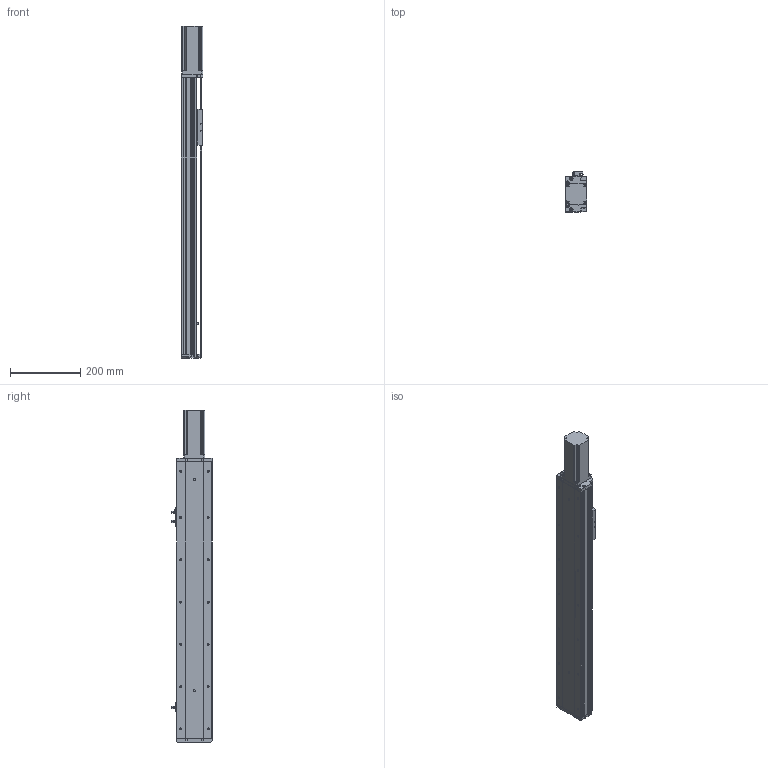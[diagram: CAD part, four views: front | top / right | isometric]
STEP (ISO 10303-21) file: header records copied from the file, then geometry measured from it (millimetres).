
FILE_DESCRIPTION (( 'STEP AP214' ), '1' );
FILE_NAME ('KSD100S-S550-MN-CM.STEP', '2019-08-30T07:07:58', ( '微软用户' ), ( '微软中国' ), 'SwSTEP 2.0', 'SolidWorks 2014', '' );
FILE_SCHEMA (( 'AUTOMOTIVE_DESIGN' ));
Length unit declared in the file: millimetre
Products named in the file (9): KSD100S-S550-MN-CM; 台达ECMA－C20604AS伺服电机; 覜茼え100遵圉猾敕; U倰嫖萇EEㄜSX672; 100宽防尘板丝杆550行程不带电机座; 100宽马达安装板不带电机座; 100宽滚珠螺姆安装板半封闭; 100遵傷啣; 100宽底板半封闭550行程丝杆不带电机座
Assembly tree (10 placements, depth 2):
  KSD100S-S550-MN-CM
    100宽底板半封闭550行程丝杆不带电机座
    100遵傷啣
    100宽滚珠螺姆安装板半封闭
    100宽马达安装板不带电机座
    100宽防尘板丝杆550行程不带电机座
    U倰嫖萇EEㄜSX672  x3
    覜茼え100遵圉猾敕
    台达ECMA－C20604AS伺服电机
Bounding box: 62 x 113.7 x 942 mm (x, y, z)
Volume: 2045186.6 mm3; surface area: 618860.2 mm2
Topology: 11 solids, 11 shells, 1084 faces, 3062 edges, 1937 vertices
Faces by surface type: cylinder 509, plane 456, cone 119
Entity records: 37072 total; most frequent: CARTESIAN_POINT 7322, DIRECTION 4933, ORIENTED_EDGE 4792, EDGE_CURVE 2396, AXIS2_PLACEMENT_3D 1776, VERTEX_POINT 1561, LINE 1381, VECTOR 1381
